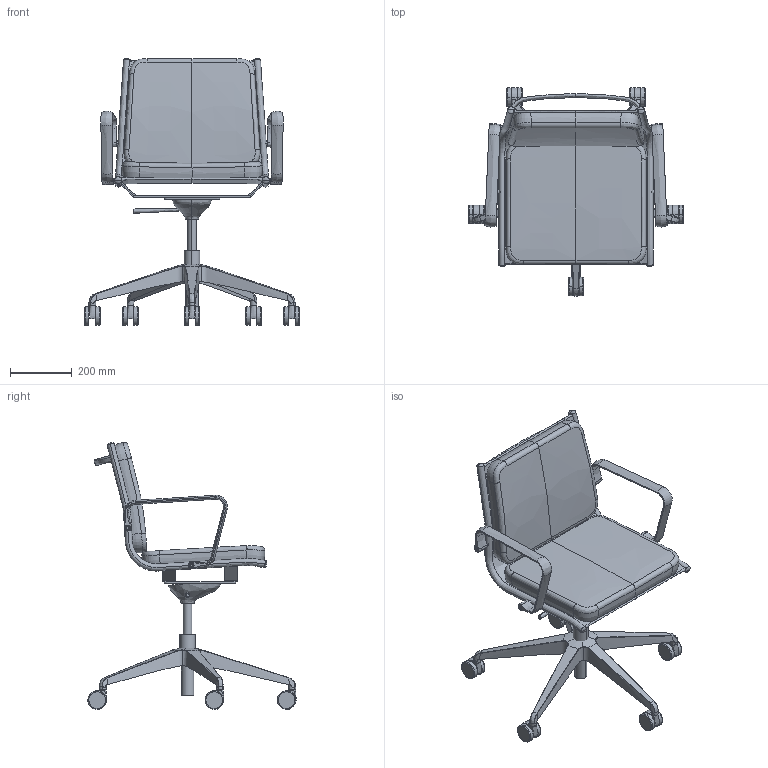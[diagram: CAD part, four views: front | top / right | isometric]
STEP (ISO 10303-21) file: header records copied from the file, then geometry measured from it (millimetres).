
FILE_DESCRIPTION(/* description */ (''),/* implementation_level */ '2;1');
FILE_NAME(/* name */ 'FLY701~1',/* time_stamp */ '2017-10-19T15:01:04+02:00',/* author */ (''),/* organization */ (''),/* preprocessor_version */ 'ST-DEVELOPER v15',/* originating_system */ '',/* authorisation */ '');
FILE_SCHEMA (('CONFIG_CONTROL_DESIGN'));
Length unit declared in the file: millimetre
Products named in the file (1): Document
Bounding box: 694.82 x 673.73 x 863.62 mm (x, y, z)
Volume: 1837645.4 mm3; surface area: 1987058.4 mm2
Topology: 10 solids, 48 shells, 465 faces, 1120 edges, 677 vertices
Faces by surface type: bspline 362, plane 103
Entity records: 28640 total; most frequent: CARTESIAN_POINT 22435, ORIENTED_EDGE 2016, EDGE_CURVE 1084, VERTEX_POINT 671, EDGE_LOOP 477, ADVANCED_FACE 465, FACE_OUTER_BOUND 465, B_SPLINE_CURVE_WITH_KNOTS 418
